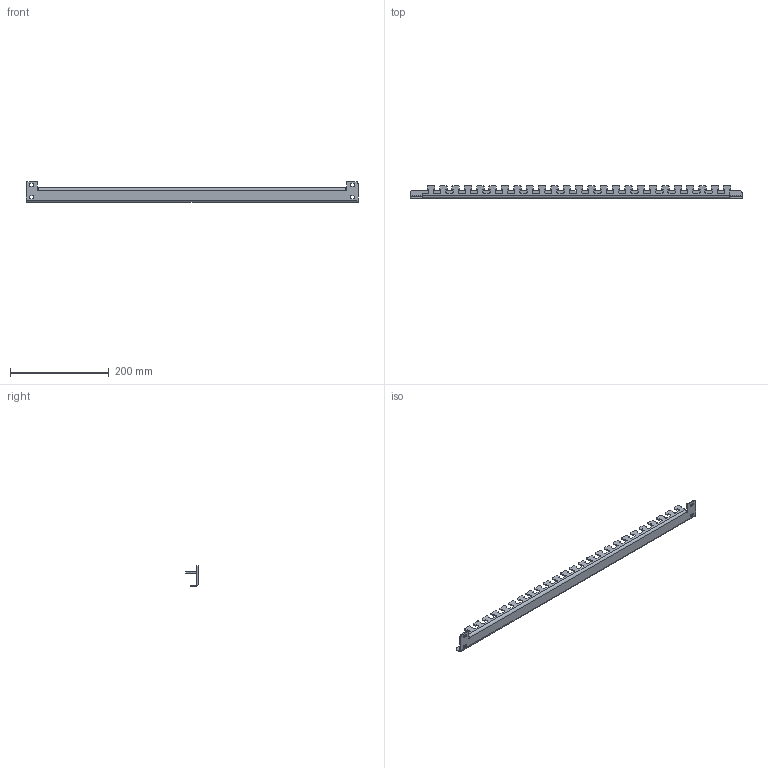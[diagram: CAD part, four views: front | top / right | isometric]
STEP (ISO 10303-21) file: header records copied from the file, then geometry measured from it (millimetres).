
FILE_DESCRIPTION (( 'STEP AP203' ), '1' );
FILE_NAME ('MG 80 Ðåéêà ãîðèçîíòàëüíàÿ íèæíÿÿ.STEP', '2012-11-26T12:18:51', ( 'system' ), ( '' ), 'SwSTEP 2.0', 'SolidWorks 2012', '' );
FILE_SCHEMA (( 'CONFIG_CONTROL_DESIGN' ));
Length unit declared in the file: millimetre
Products named in the file (1): MG 80 Ðåéêà ãîðèçîíòàëüíàÿ íèæíÿÿ
Bounding box: 672.5 x 25 x 42.53 mm (x, y, z)
Volume: 89742 mm3; surface area: 78038.8 mm2
Topology: 1 solids, 1 shells, 449 faces, 1325 edges, 878 vertices
Faces by surface type: plane 228, cylinder 219, bspline 2
Entity records: 15176 total; most frequent: CARTESIAN_POINT 2689, DIRECTION 2651, ORIENTED_EDGE 2650, EDGE_CURVE 1325, AXIS2_PLACEMENT_3D 886, VECTOR 879, LINE 879, VERTEX_POINT 878
